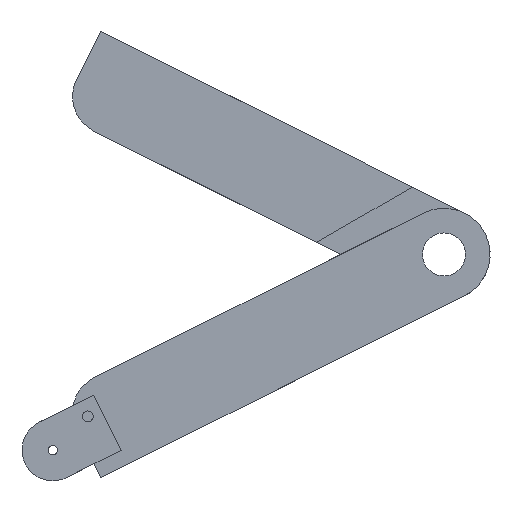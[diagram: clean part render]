
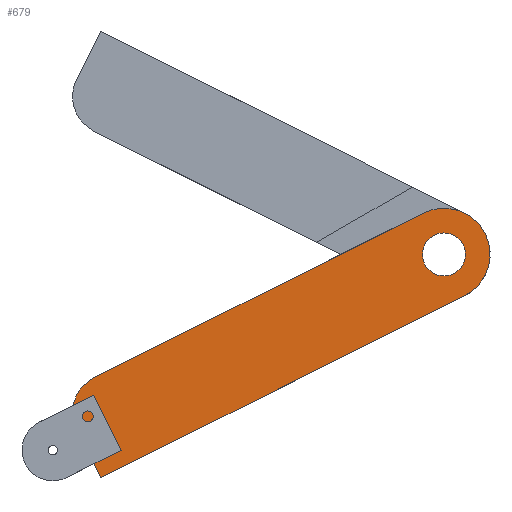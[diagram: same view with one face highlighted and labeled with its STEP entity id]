
A CAD part, front view. The second image highlights one B-rep face of the part: STEP entity #679.
In plain terms, the highlighted planar face has unit normal (0, -1, 0).
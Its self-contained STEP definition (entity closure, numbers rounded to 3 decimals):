
#19=FACE_BOUND('',#98,.T.);
#32=PLANE('',#735);
#59=FACE_OUTER_BOUND('',#97,.T.);
#97=EDGE_LOOP('',(#483,#484,#485,#486,#487));
#98=EDGE_LOOP('',(#488));
#147=LINE('',#1003,#219);
#152=LINE('',#1013,#224);
#153=LINE('',#1015,#225);
#219=VECTOR('',#805,10.);
#224=VECTOR('',#812,10.);
#225=VECTOR('',#813,10.);
#290=CIRCLE('',#733,12.5);
#291=CIRCLE('',#736,15.);
#292=CIRCLE('',#737,6.985);
#315=VERTEX_POINT('',#996);
#316=VERTEX_POINT('',#998);
#317=VERTEX_POINT('',#1002);
#321=VERTEX_POINT('',#1012);
#322=VERTEX_POINT('',#1014);
#323=VERTEX_POINT('',#1017);
#379=EDGE_CURVE('',#315,#316,#290,.T.);
#381=EDGE_CURVE('',#317,#316,#147,.T.);
#386=EDGE_CURVE('',#315,#321,#152,.T.);
#387=EDGE_CURVE('',#321,#322,#153,.T.);
#388=EDGE_CURVE('',#322,#317,#291,.T.);
#389=EDGE_CURVE('',#323,#323,#292,.T.);
#483=ORIENTED_EDGE('',*,*,#379,.F.);
#484=ORIENTED_EDGE('',*,*,#386,.T.);
#485=ORIENTED_EDGE('',*,*,#387,.T.);
#486=ORIENTED_EDGE('',*,*,#388,.T.);
#487=ORIENTED_EDGE('',*,*,#381,.T.);
#488=ORIENTED_EDGE('',*,*,#389,.T.);
#679=ADVANCED_FACE('',(#59,#19),#32,.T.);
#733=AXIS2_PLACEMENT_3D('',#999,#800,#801);
#735=AXIS2_PLACEMENT_3D('',#1011,#810,#811);
#736=AXIS2_PLACEMENT_3D('',#1016,#814,#815);
#737=AXIS2_PLACEMENT_3D('',#1018,#816,#817);
#800=DIRECTION('center_axis',(0.,1.,0.));
#801=DIRECTION('ref_axis',(-0.949,0.,0.316));
#805=DIRECTION('',(-0.894,0.,-0.447));
#810=DIRECTION('center_axis',(0.,-1.,0.));
#811=DIRECTION('ref_axis',(0.,0.,-1.));
#812=DIRECTION('',(0.447,0.,-0.894));
#813=DIRECTION('',(0.894,0.,0.447));
#814=DIRECTION('center_axis',(0.,-1.,0.));
#815=DIRECTION('ref_axis',(-0.447,0.,0.894));
#816=DIRECTION('center_axis',(0.,1.,0.));
#817=DIRECTION('ref_axis',(1.,0.,0.));
#996=CARTESIAN_POINT('',(7.746,-9.55,-56.832));
#998=CARTESIAN_POINT('',(13.336,-9.55,-40.061));
#999=CARTESIAN_POINT('Origin',(18.926,-9.55,-51.242));
#1002=CARTESIAN_POINT('',(120.292,-9.55,13.416));
#1003=CARTESIAN_POINT('',(120.292,-9.55,13.416));
#1011=CARTESIAN_POINT('Origin',(59.46,-9.55,-38.203));
#1012=CARTESIAN_POINT('',(15.572,-9.55,-72.484));
#1013=CARTESIAN_POINT('',(15.572,-9.55,-72.484));
#1014=CARTESIAN_POINT('',(133.708,-9.55,-13.416));
#1015=CARTESIAN_POINT('',(133.708,-9.55,-13.416));
#1016=CARTESIAN_POINT('Origin',(127.,-9.55,0.));
#1017=CARTESIAN_POINT('',(120.015,-9.55,0.));
#1018=CARTESIAN_POINT('Origin',(127.,-9.55,0.));
